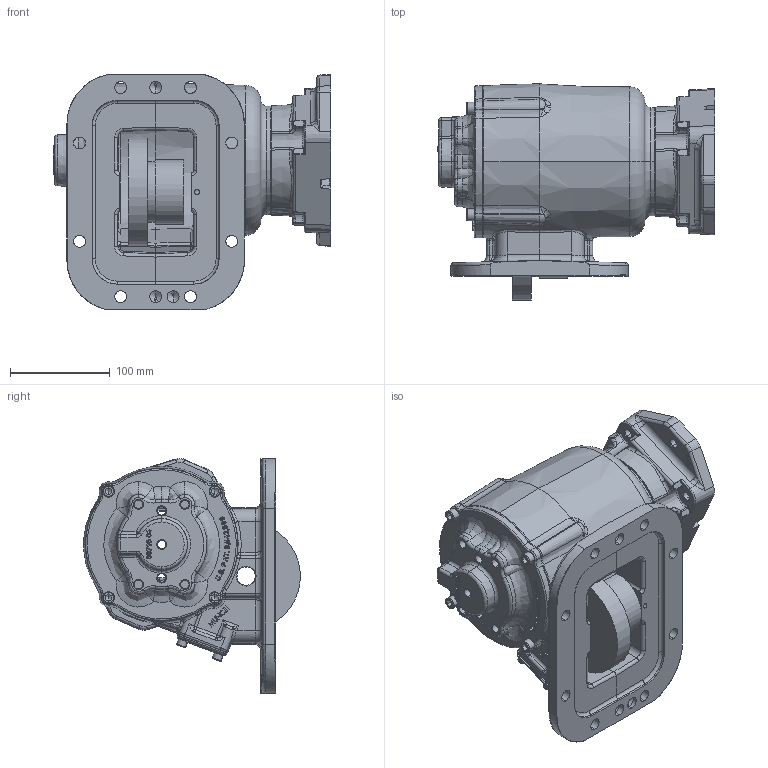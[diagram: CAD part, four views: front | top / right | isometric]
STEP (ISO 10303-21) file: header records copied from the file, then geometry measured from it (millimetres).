
FILE_DESCRIPTION (( 'STEP AP203' ), '1' );
FILE_NAME ('CS8S-XXXXX-X3ZX.STEP', '2022-11-29T19:11:04', ( '' ), ( '' ), 'SwSTEP 2.0', 'SolidWorks 2021', '' );
FILE_SCHEMA (( 'CONFIG_CONTROL_DESIGN' ));
Length unit declared in the file: inch
Products named in the file (9): 19T35237; 01T37074_01T37074; 19T41118; Input Gear abstract (CS6-CS8); CS8S-XXXXX-X3ZX; 15T36717; 14T38343a; 19T34462-1; 16T41119
Assembly tree (17 placements, depth 2):
  CS8S-XXXXX-X3ZX
    01T37074_01T37074
    15T36717
    16T41119
    Input Gear abstract (CS6-CS8)
    19T41118  x4
    19T35237  x4
    14T38343a
    19T34462-1  x4
Bounding box: 278.14 x 216.55 x 235.42 mm (x, y, z)
Volume: 2002968.6 mm3; surface area: 495795.6 mm2
Topology: 17 solids, 17 shells, 2558 faces, 6513 edges, 4024 vertices
Faces by surface type: bspline 959, plane 688, cylinder 504, cone 275, torus 124, sphere 8
Entity records: 119796 total; most frequent: CARTESIAN_POINT 68243, ORIENTED_EDGE 11934, DIRECTION 8050, EDGE_CURVE 5967, VERTEX_POINT 3739, AXIS2_PLACEMENT_3D 2811, EDGE_LOOP 2606, LINE 2428
